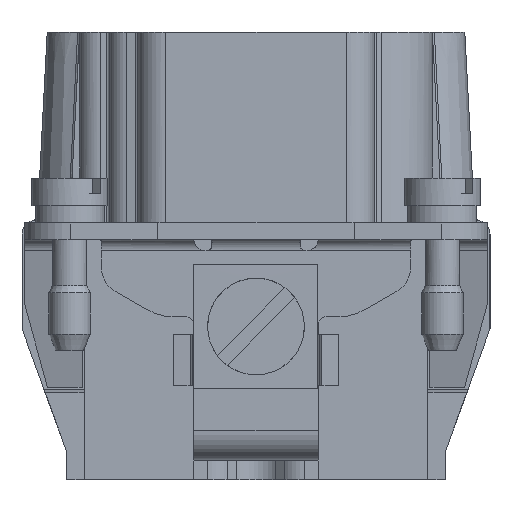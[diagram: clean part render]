
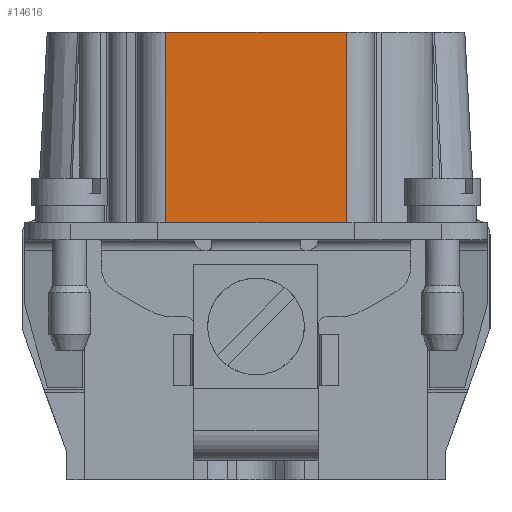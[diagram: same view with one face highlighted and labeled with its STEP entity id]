
A CAD part, left-side view. The second image highlights one B-rep face of the part: STEP entity #14616.
In plain terms, the highlighted planar face has unit normal (-1, 0, 0).
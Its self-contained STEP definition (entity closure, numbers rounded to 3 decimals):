
#14616=ADVANCED_FACE('',(#19207),#17562,.T.);
#17562=PLANE('',#70629);
#19207=FACE_OUTER_BOUND('',#22326,.T.);
#22326=EDGE_LOOP('',(#28559,#28560,#28561,#28562));
#28559=ORIENTED_EDGE('',*,*,#47188,.T.);
#28560=ORIENTED_EDGE('',*,*,#48920,.T.);
#28561=ORIENTED_EDGE('',*,*,#48778,.F.);
#28562=ORIENTED_EDGE('',*,*,#48921,.T.);
#41864=VERTEX_POINT('',#87923);
#41865=VERTEX_POINT('',#87925);
#43116=VERTEX_POINT('',#91346);
#43117=VERTEX_POINT('',#91348);
#47188=EDGE_CURVE('',#41865,#41864,#58539,.T.);
#48778=EDGE_CURVE('',#43116,#43117,#59848,.T.);
#48920=EDGE_CURVE('',#41864,#43117,#59943,.T.);
#48921=EDGE_CURVE('',#43116,#41865,#59944,.T.);
#58539=LINE('',#87924,#63279);
#59848=LINE('',#91347,#64588);
#59943=LINE('',#91717,#64683);
#59944=LINE('',#91718,#64684);
#63279=VECTOR('',#74663,1.);
#64588=VECTOR('',#77236,1.);
#64683=VECTOR('',#77509,1.);
#64684=VECTOR('',#77510,1.);
#70629=AXIS2_PLACEMENT_3D('',#91719,#77511,#77512);
#74663=DIRECTION('',(0.,-1.,0.));
#77236=DIRECTION('',(0.,-1.,0.));
#77509=DIRECTION('',(0.,0.,1.));
#77510=DIRECTION('',(0.,0.,-1.));
#77511=DIRECTION('',(-1.,0.,0.));
#77512=DIRECTION('',(0.,0.,-1.));
#87923=CARTESIAN_POINT('',(-55.425,-6.55,1.2));
#87924=CARTESIAN_POINT('',(-55.425,8.55,1.2));
#87925=CARTESIAN_POINT('',(-55.425,6.55,1.2));
#91346=CARTESIAN_POINT('',(-55.425,6.55,15.));
#91347=CARTESIAN_POINT('',(-55.425,8.55,15.));
#91348=CARTESIAN_POINT('',(-55.425,-6.55,15.));
#91717=CARTESIAN_POINT('',(-55.425,-6.55,15.));
#91718=CARTESIAN_POINT('',(-55.425,6.55,15.));
#91719=CARTESIAN_POINT('',(-55.425,8.55,15.));
